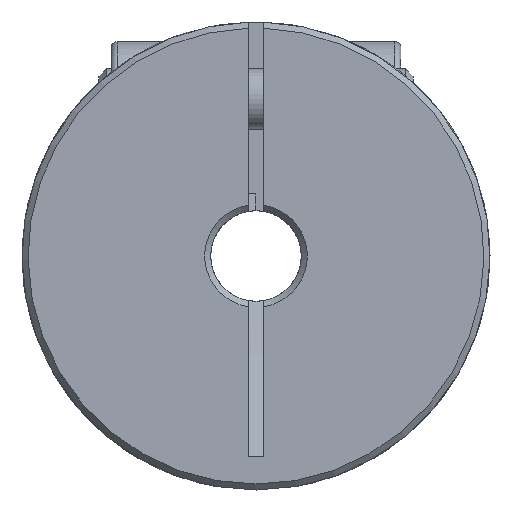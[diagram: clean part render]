
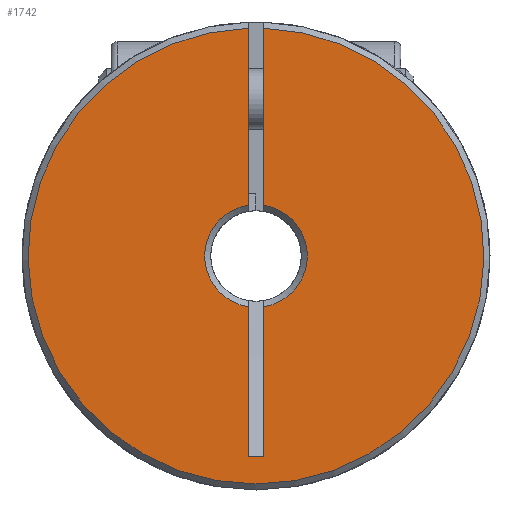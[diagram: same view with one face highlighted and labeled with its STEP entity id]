
A CAD part, left-side view. The second image highlights one B-rep face of the part: STEP entity #1742.
In plain terms, the highlighted planar face has unit normal (-1, 0, 0).
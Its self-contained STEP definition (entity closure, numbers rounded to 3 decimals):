
#125=LINE('',#2805,#205);
#128=LINE('',#2816,#208);
#131=LINE('',#2847,#211);
#136=LINE('',#2869,#216);
#137=LINE('',#2877,#217);
#205=VECTOR('',#2174,1000.);
#208=VECTOR('',#2179,1000.);
#211=VECTOR('',#2194,1000.);
#216=VECTOR('',#2203,1000.);
#217=VECTOR('',#2206,1000.);
#375=ORIENTED_EDGE('',*,*,#790,.T.);
#376=ORIENTED_EDGE('',*,*,#739,.F.);
#377=ORIENTED_EDGE('',*,*,#749,.F.);
#378=ORIENTED_EDGE('',*,*,#759,.T.);
#379=ORIENTED_EDGE('',*,*,#791,.T.);
#380=ORIENTED_EDGE('',*,*,#757,.T.);
#381=ORIENTED_EDGE('',*,*,#792,.F.);
#382=ORIENTED_EDGE('',*,*,#735,.F.);
#735=EDGE_CURVE('',#947,#948,#125,.T.);
#739=EDGE_CURVE('',#951,#952,#128,.T.);
#749=EDGE_CURVE('',#960,#951,#131,.T.);
#757=EDGE_CURVE('',#963,#967,#136,.T.);
#759=EDGE_CURVE('',#960,#968,#137,.T.);
#790=EDGE_CURVE('',#947,#952,#1111,.T.);
#791=EDGE_CURVE('',#968,#963,#1112,.T.);
#792=EDGE_CURVE('',#948,#967,#1113,.T.);
#947=VERTEX_POINT('',#2804);
#948=VERTEX_POINT('',#2806);
#951=VERTEX_POINT('',#2817);
#952=VERTEX_POINT('',#2818);
#960=VERTEX_POINT('',#2846);
#963=VERTEX_POINT('',#2856);
#967=VERTEX_POINT('',#2868);
#968=VERTEX_POINT('',#2875);
#1111=CIRCLE('',#1913,1.7);
#1112=CIRCLE('',#1914,1.7);
#1113=CIRCLE('',#1915,7.55);
#1233=EDGE_LOOP('',(#375,#376,#377,#378,#379,#380,#381,#382));
#1457=FACE_BOUND('',#1233,.T.);
#1664=PLANE('',#1912);
#1742=ADVANCED_FACE('',(#1457),#1664,.F.);
#1912=AXIS2_PLACEMENT_3D('',#3001,#2256,#2257);
#1913=AXIS2_PLACEMENT_3D('',#3002,#2258,#2259);
#1914=AXIS2_PLACEMENT_3D('',#3003,#2260,#2261);
#1915=AXIS2_PLACEMENT_3D('',#3004,#2262,#2263);
#2174=DIRECTION('',(0.,0.,1.));
#2179=DIRECTION('',(0.,0.,1.));
#2194=DIRECTION('',(0.,-1.,0.));
#2203=DIRECTION('',(0.,0.,1.));
#2206=DIRECTION('',(0.,0.,1.));
#2256=DIRECTION('',(1.,0.,0.));
#2257=DIRECTION('',(0.,0.,-1.));
#2258=DIRECTION('',(1.,0.,0.));
#2259=DIRECTION('',(0.,0.,-1.));
#2260=DIRECTION('',(1.,0.,0.));
#2261=DIRECTION('',(0.,0.,-1.));
#2262=DIRECTION('',(1.,0.,0.));
#2263=DIRECTION('',(0.,0.,-1.));
#2804=CARTESIAN_POINT('',(0.,-0.25,1.682));
#2805=CARTESIAN_POINT('',(0.,-0.25,-6.624));
#2806=CARTESIAN_POINT('',(0.,-0.25,7.546));
#2816=CARTESIAN_POINT('',(0.,-0.25,-6.624));
#2817=CARTESIAN_POINT('',(0.,-0.25,-6.624));
#2818=CARTESIAN_POINT('',(0.,-0.25,-1.682));
#2846=CARTESIAN_POINT('',(0.,0.25,-6.624));
#2847=CARTESIAN_POINT('',(0.,0.25,-6.624));
#2856=CARTESIAN_POINT('',(0.,0.25,1.682));
#2868=CARTESIAN_POINT('',(0.,0.25,7.546));
#2869=CARTESIAN_POINT('',(0.,0.25,-6.624));
#2875=CARTESIAN_POINT('',(0.,0.25,-1.682));
#2877=CARTESIAN_POINT('',(0.,0.25,-6.624));
#3001=CARTESIAN_POINT('',(0.,0.,0.));
#3002=CARTESIAN_POINT('',(0.,0.,0.));
#3003=CARTESIAN_POINT('',(0.,0.,0.));
#3004=CARTESIAN_POINT('',(0.,0.,0.));
